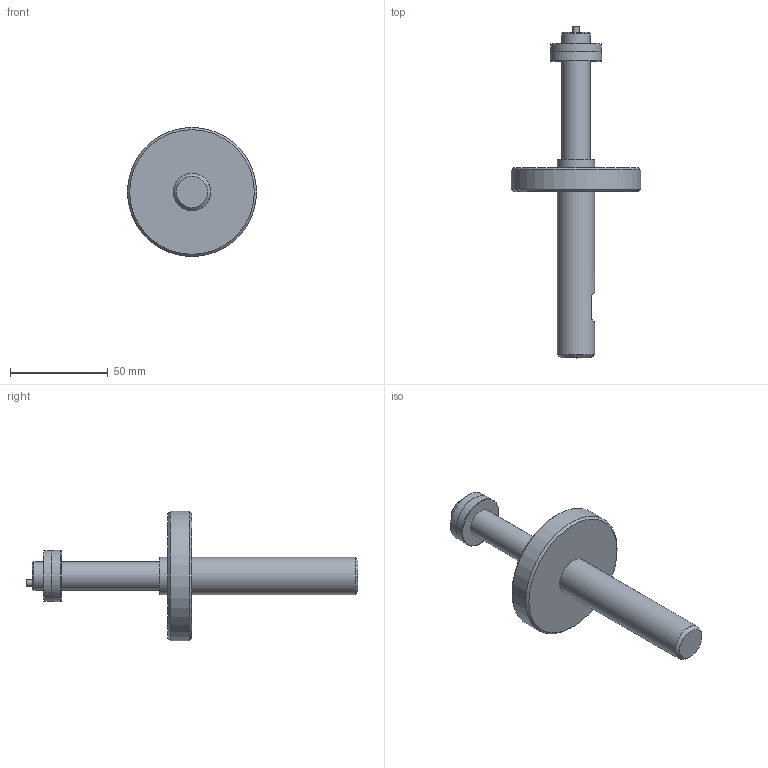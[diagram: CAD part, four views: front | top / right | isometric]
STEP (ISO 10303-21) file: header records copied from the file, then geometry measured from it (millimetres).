
FILE_DESCRIPTION (( 'STEP AP203' ), '1' );
FILE_NAME ('AF56-SIMPLE - AF56-14.50-26.50M.step', '2025-01-22T13:31:16', ( '' ), ( '' ), 'SwSTEP 2.0', 'SolidWorks 2024', '' );
FILE_SCHEMA (( 'CONFIG_CONTROL_DESIGN' ));
Length unit declared in the file: inch
Products named in the file (1): AF56-SIMPLE - AF56-14.50-26.50M
Bounding box: 66.04 x 169.8 x 66.04 mm (x, y, z)
Volume: 80629.4 mm3; surface area: 18421.5 mm2
Topology: 1 solids, 1 shells, 24 faces, 40 edges, 25 vertices
Faces by surface type: plane 11, cylinder 7, cone 5, torus 1
Full cylindrical faces by diameter (mm): 3.175 x1, 14.376 x2, 19.05 x2, 25.994 x1, 66.04 x1
Entity records: 569 total; most frequent: DIRECTION 94, CARTESIAN_POINT 81, ORIENTED_EDGE 52, AXIS2_PLACEMENT_3D 45, EDGE_LOOP 44, FACE_OUTER_BOUND 32, EDGE_CURVE 26, ADVANCED_FACE 24
